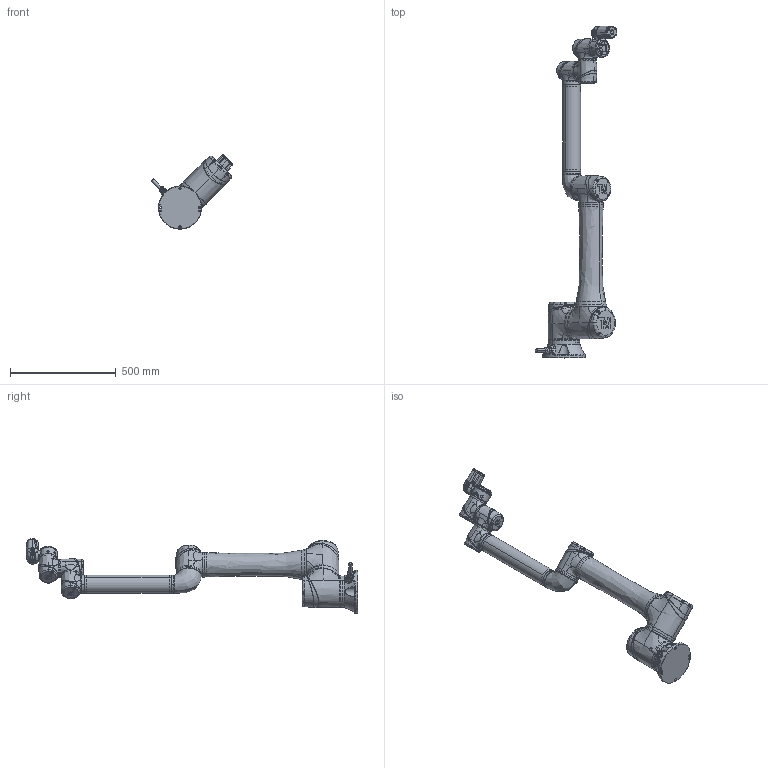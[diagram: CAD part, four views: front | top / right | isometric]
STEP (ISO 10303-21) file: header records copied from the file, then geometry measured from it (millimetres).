
FILE_DESCRIPTION((''),'2;1');
FILE_NAME('TRI-TM20_ASM','2023-01-09T',('Hoe.Cheng'),(''),'CREO PARAMETRIC BY PTC INC, 2015290','CREO PARAMETRIC BY PTC INC, 2015290','');
FILE_SCHEMA(('AUTOMOTIVE_DESIGN { 1 0 10303 214 1 1 1 1 }'));
Products named in the file (9): BASE; J700; ARM1; J400; JL; ARM2; J100; IOM; TRI-TM20_ASM
Assembly tree (11 placements, depth 2):
  TRI-TM20_ASM
    BASE
    J700  x2
    ARM1
    J400
    JL
    ARM2
    J100  x3
    IOM
Bounding box: 386.8 x 1570.06 x 351.45 mm (x, y, z)
Volume: 20443200.3 mm3; surface area: 1383461.5 mm2
Topology: 11 solids, 37 shells, 3786 faces, 10219 edges, 6735 vertices
Faces by surface type: plane 1374, bspline 1108, cylinder 654, cone 259, torus 235, extrusion 138, revolution 12, sphere 6
Entity records: 155249 total; most frequent: CARTESIAN_POINT 94855, ORIENTED_EDGE 14104, DIRECTION 10012, EDGE_CURVE 7052, VERTEX_POINT 4648, AXIS2_PLACEMENT_3D 3778, B_SPLINE_CURVE_WITH_KNOTS 2867, EDGE_LOOP 2836
